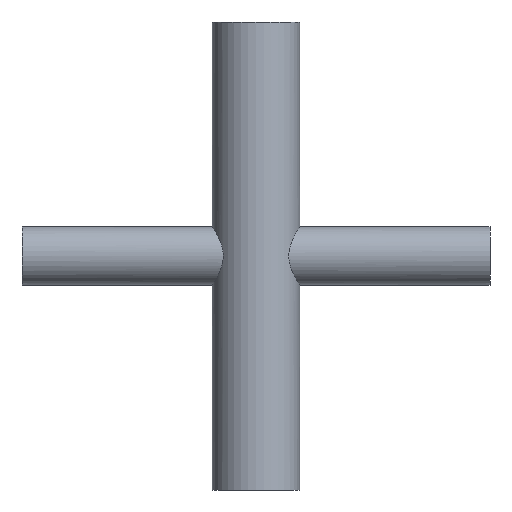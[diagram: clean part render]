
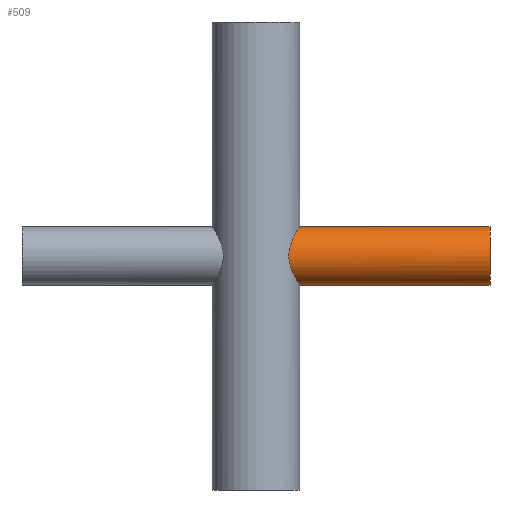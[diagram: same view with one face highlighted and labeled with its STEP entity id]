
A CAD part, front view. The second image highlights one B-rep face of the part: STEP entity #509.
In plain terms, the highlighted cylindrical face has radius 6.35 mm (diameter 12.7 mm), a partial arc.
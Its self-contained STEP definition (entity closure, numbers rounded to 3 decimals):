
#21 = CARTESIAN_POINT ( 'NONE',  ( 9.525, 0., -6.35 ) ) ;
#24 = VERTEX_POINT ( 'NONE', #805 ) ;
#25 = CARTESIAN_POINT ( 'NONE',  ( 8.086, -5.042, -3.881 ) ) ;
#30 = CARTESIAN_POINT ( 'NONE',  ( 7.577, -5.773, 2.653 ) ) ;
#33 = CARTESIAN_POINT ( 'NONE',  ( 9.38, -1.707, 6.131 ) ) ;
#37 = CARTESIAN_POINT ( 'NONE',  ( -50.8, 0., -6.35 ) ) ;
#61 = EDGE_CURVE ( 'NONE', #24, #179, #200, .T. ) ;
#79 = EDGE_CURVE ( 'NONE', #179, #647, #508, .T. ) ;
#85 = CARTESIAN_POINT ( 'NONE',  ( 7.646, -5.684, -2.861 ) ) ;
#86 = CARTESIAN_POINT ( 'NONE',  ( 9.525, 0., 6.35 ) ) ;
#87 = CARTESIAN_POINT ( 'NONE',  ( 7.785, -5.489, 3.199 ) ) ;
#89 = CARTESIAN_POINT ( 'NONE',  ( 9.525, -0.434, 6.35 ) ) ;
#126 = CARTESIAN_POINT ( 'NONE',  ( 50.8, 0., -6.35 ) ) ;
#134 = ORIENTED_EDGE ( 'NONE', *, *, #79, .F. ) ;
#147 = CARTESIAN_POINT ( 'NONE',  ( 7.289, -6.133, -1.701 ) ) ;
#150 = EDGE_LOOP ( 'NONE', ( #134, #342, #431, #214 ) ) ;
#152 = CARTESIAN_POINT ( 'NONE',  ( 8.082, -5.047, 3.874 ) ) ;
#179 = VERTEX_POINT ( 'NONE', #86 ) ;
#200 = B_SPLINE_CURVE_WITH_KNOTS ( 'NONE', 3,
 ( #21, #406, #586, #215, #654, #276, #721, #344, #784, #408, #25, #470, #85, #534, #147, #591, #218, #658, #278, #726, #348, #787, #411, #30, #473, #87, #535, #152, #594, #220, #660, #281, #727, #350, #788, #414, #33, #475, #89, #537 ),
 .UNSPECIFIED., .F., .F.,
 ( 4, 2, 2, 2, 2, 2, 2, 2, 2, 2, 2, 2, 2, 2, 2, 2, 2, 2, 2, 4 ),
 ( 0.021, 0.022, 0.023, 0.024, 0.026, 0.027, 0.028, 0.029, 0.03, 0.031, 0.032, 0.033, 0.034, 0.035, 0.036, 0.037, 0.038, 0.038, 0.04, 0.041 ),
 .UNSPECIFIED. ) ;
#214 = ORIENTED_EDGE ( 'NONE', *, *, #536, .T. ) ;
#215 = CARTESIAN_POINT ( 'NONE',  ( 9.383, -1.691, -6.135 ) ) ;
#218 = CARTESIAN_POINT ( 'NONE',  ( 7.15, -6.294, -0.87 ) ) ;
#220 = CARTESIAN_POINT ( 'NONE',  ( 8.544, -4.222, 4.76 ) ) ;
#229 = CYLINDRICAL_SURFACE ( 'NONE', #304, 6.35 ) ;
#232 = DIRECTION ( 'NONE',  ( 0., 0., -1. ) ) ;
#276 = CARTESIAN_POINT ( 'NONE',  ( 9.092, -2.867, -5.681 ) ) ;
#278 = CARTESIAN_POINT ( 'NONE',  ( 7.1, -6.35, -0.225 ) ) ;
#281 = CARTESIAN_POINT ( 'NONE',  ( 8.895, -3.411, 5.36 ) ) ;
#283 = CARTESIAN_POINT ( 'NONE',  ( -50.8, 0., 6.35 ) ) ;
#285 = LINE ( 'NONE', #37, #316 ) ;
#304 = AXIS2_PLACEMENT_3D ( 'NONE', #420, #606, #232 ) ;
#316 = VECTOR ( 'NONE', #417, 1000. ) ;
#333 = EDGE_CURVE ( 'NONE', #24, #799, #285, .T. ) ;
#342 = ORIENTED_EDGE ( 'NONE', *, *, #61, .F. ) ;
#343 = AXIS2_PLACEMENT_3D ( 'NONE', #367, #803, #427 ) ;
#344 = CARTESIAN_POINT ( 'NONE',  ( 8.694, -3.908, -5.022 ) ) ;
#348 = CARTESIAN_POINT ( 'NONE',  ( 7.138, -6.308, 0.845 ) ) ;
#350 = CARTESIAN_POINT ( 'NONE',  ( 9.083, -2.874, 5.666 ) ) ;
#366 = CARTESIAN_POINT ( 'NONE',  ( 50.8, 0., 6.35 ) ) ;
#367 = CARTESIAN_POINT ( 'NONE',  ( 50.8, 0., 0. ) ) ;
#406 = CARTESIAN_POINT ( 'NONE',  ( 9.525, -0.434, -6.35 ) ) ;
#408 = CARTESIAN_POINT ( 'NONE',  ( 8.243, -4.784, -4.195 ) ) ;
#411 = CARTESIAN_POINT ( 'NONE',  ( 7.39, -6.013, 2.083 ) ) ;
#414 = CARTESIAN_POINT ( 'NONE',  ( 9.297, -2.108, 6.004 ) ) ;
#417 = DIRECTION ( 'NONE',  ( 1., 0., 0. ) ) ;
#420 = CARTESIAN_POINT ( 'NONE',  ( -50.8, 0., 0. ) ) ;
#427 = DIRECTION ( 'NONE',  ( 0., 0., -1. ) ) ;
#431 = ORIENTED_EDGE ( 'NONE', *, *, #333, .T. ) ;
#470 = CARTESIAN_POINT ( 'NONE',  ( 7.788, -5.491, -3.214 ) ) ;
#473 = CARTESIAN_POINT ( 'NONE',  ( 7.645, -5.683, 2.84 ) ) ;
#475 = CARTESIAN_POINT ( 'NONE',  ( 9.495, -0.868, 6.305 ) ) ;
#508 = LINE ( 'NONE', #283, #798 ) ;
#509 = ADVANCED_FACE ( 'NONE', ( #569 ), #229, .T. ) ;
#534 = CARTESIAN_POINT ( 'NONE',  ( 7.397, -6.005, -2.106 ) ) ;
#535 = CARTESIAN_POINT ( 'NONE',  ( 7.858, -5.384, 3.372 ) ) ;
#536 = EDGE_CURVE ( 'NONE', #799, #647, #735, .T. ) ;
#537 = CARTESIAN_POINT ( 'NONE',  ( 9.525, 0., 6.35 ) ) ;
#569 = FACE_OUTER_BOUND ( 'NONE', #150, .T. ) ;
#586 = CARTESIAN_POINT ( 'NONE',  ( 9.495, -0.859, -6.306 ) ) ;
#591 = CARTESIAN_POINT ( 'NONE',  ( 7.178, -6.261, -1.08 ) ) ;
#594 = CARTESIAN_POINT ( 'NONE',  ( 8.239, -4.791, 4.187 ) ) ;
#606 = DIRECTION ( 'NONE',  ( 1., 0., 0. ) ) ;
#647 = VERTEX_POINT ( 'NONE', #366 ) ;
#654 = CARTESIAN_POINT ( 'NONE',  ( 9.299, -2.101, -6.007 ) ) ;
#658 = CARTESIAN_POINT ( 'NONE',  ( 7.11, -6.338, -0.443 ) ) ;
#660 = CARTESIAN_POINT ( 'NONE',  ( 8.692, -3.913, 5.017 ) ) ;
#665 = DIRECTION ( 'NONE',  ( 1., 0., 0. ) ) ;
#721 = CARTESIAN_POINT ( 'NONE',  ( 8.969, -3.229, -5.483 ) ) ;
#726 = CARTESIAN_POINT ( 'NONE',  ( 7.099, -6.351, 0.421 ) ) ;
#727 = CARTESIAN_POINT ( 'NONE',  ( 8.96, -3.236, 5.467 ) ) ;
#735 = CIRCLE ( 'NONE', #343, 6.35 ) ;
#784 = CARTESIAN_POINT ( 'NONE',  ( 8.546, -4.217, -4.764 ) ) ;
#787 = CARTESIAN_POINT ( 'NONE',  ( 7.285, -6.138, 1.683 ) ) ;
#788 = CARTESIAN_POINT ( 'NONE',  ( 9.141, -2.685, 5.758 ) ) ;
#798 = VECTOR ( 'NONE', #665, 1000. ) ;
#799 = VERTEX_POINT ( 'NONE', #126 ) ;
#803 = DIRECTION ( 'NONE',  ( -1., 0., 0. ) ) ;
#805 = CARTESIAN_POINT ( 'NONE',  ( 9.525, 0., -6.35 ) ) ;
